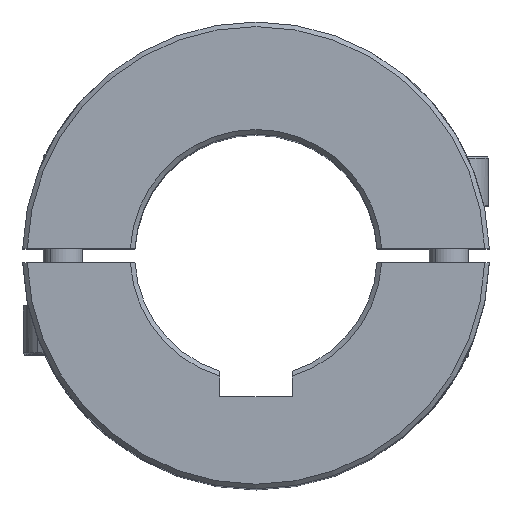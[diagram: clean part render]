
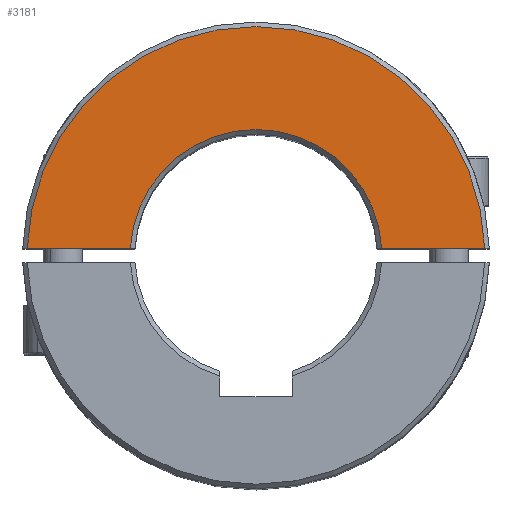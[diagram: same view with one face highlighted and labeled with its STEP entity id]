
A CAD part, top view. The second image highlights one B-rep face of the part: STEP entity #3181.
In plain terms, the highlighted planar face has unit normal (0, 0, 1).
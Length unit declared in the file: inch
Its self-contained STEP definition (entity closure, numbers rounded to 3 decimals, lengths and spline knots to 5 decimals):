
#752=DIRECTION('',(-1.,0.,0.));
#753=VECTOR('',#752,0.66895);
#754=CARTESIAN_POINT('',(1.48501,0.04688,2.12598));
#755=LINE('',#754,#753);
#783=CARTESIAN_POINT('',(0.,0.,2.12598));
#784=DIRECTION('',(0.,0.,-1.));
#785=DIRECTION('',(-0.998,0.057,0.));
#786=AXIS2_PLACEMENT_3D('',#783,#784,#785);
#808=CARTESIAN_POINT('',(-1.48501,0.04688,2.12598));
#816=DIRECTION('',(-1.,0.,0.));
#817=VECTOR('',#816,0.66895);
#818=CARTESIAN_POINT('',(-0.81606,0.04688,2.12598));
#819=LINE('',#818,#817);
#823=CARTESIAN_POINT('',(-0.81606,0.04688,2.12598));
#913=CARTESIAN_POINT('',(0.,0.,2.12598));
#914=DIRECTION('',(0.,0.,1.));
#915=DIRECTION('',(1.,0.032,0.));
#916=AXIS2_PLACEMENT_3D('',#913,#914,#915);
#2485=CARTESIAN_POINT('',(1.48501,0.04688,2.12598));
#2486=CARTESIAN_POINT('',(0.81606,0.04688,2.12598));
#2487=VERTEX_POINT('',#2485);
#2488=VERTEX_POINT('',#2486);
#2497=VERTEX_POINT('',#823);
#2502=VERTEX_POINT('',#808);
#3170=CARTESIAN_POINT('',(0.,0.,2.12598));
#3171=DIRECTION('',(0.,0.,1.));
#3172=DIRECTION('',(1.,0.,0.));
#3173=AXIS2_PLACEMENT_3D('',#3170,#3171,#3172);
#3174=PLANE('',#3173);
#3175=ORIENTED_EDGE('',*,*,#3068,.F.);
#3176=ORIENTED_EDGE('',*,*,#3088,.T.);
#3177=ORIENTED_EDGE('',*,*,#3164,.F.);
#3178=ORIENTED_EDGE('',*,*,#3040,.T.);
#3179=EDGE_LOOP('',(#3175,#3176,#3177,#3178));
#3180=FACE_OUTER_BOUND('',#3179,.F.);
#787=CIRCLE('',#786,0.8174);
#917=CIRCLE('',#916,1.48575);
#3040=EDGE_CURVE('',#2487,#2488,#755,.T.);
#3068=EDGE_CURVE('',#2497,#2488,#787,.T.);
#3088=EDGE_CURVE('',#2497,#2502,#819,.T.);
#3164=EDGE_CURVE('',#2487,#2502,#917,.T.);
#3181=ADVANCED_FACE('',(#3180),#3174,.T.);
